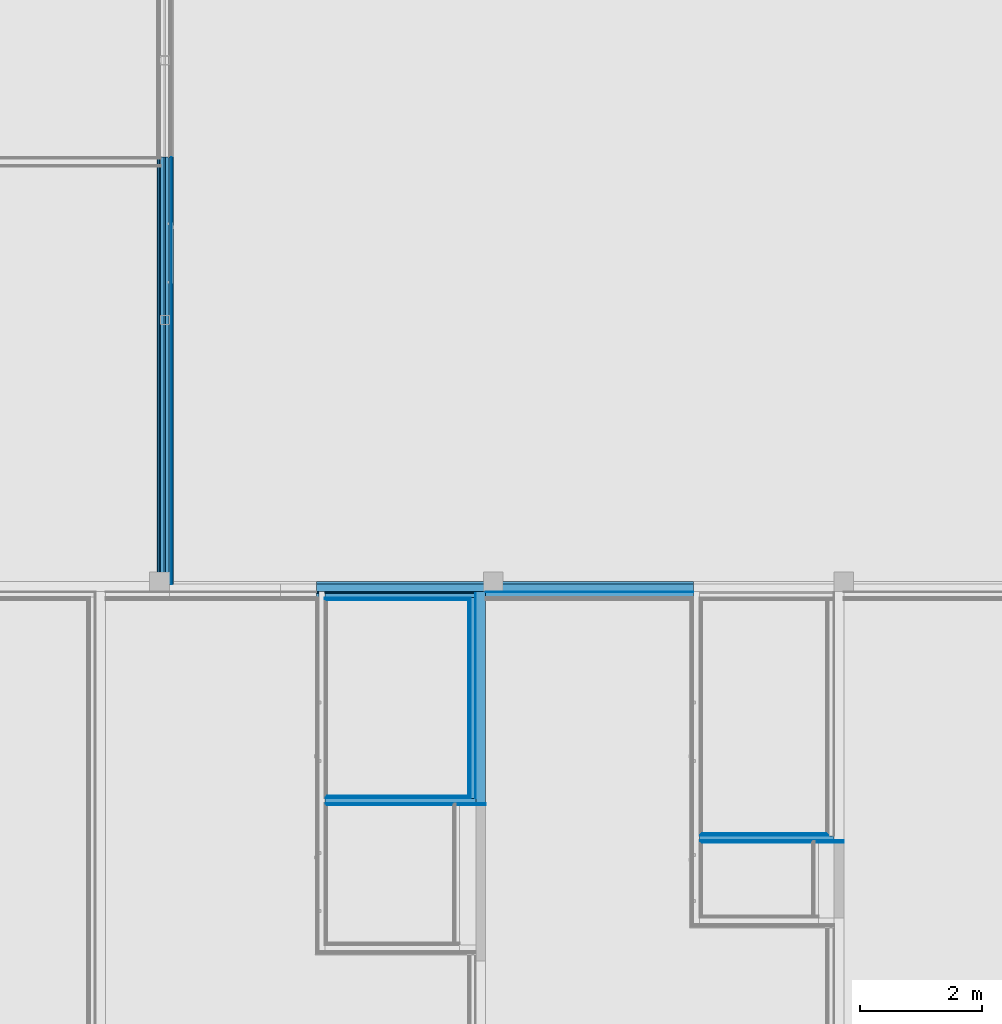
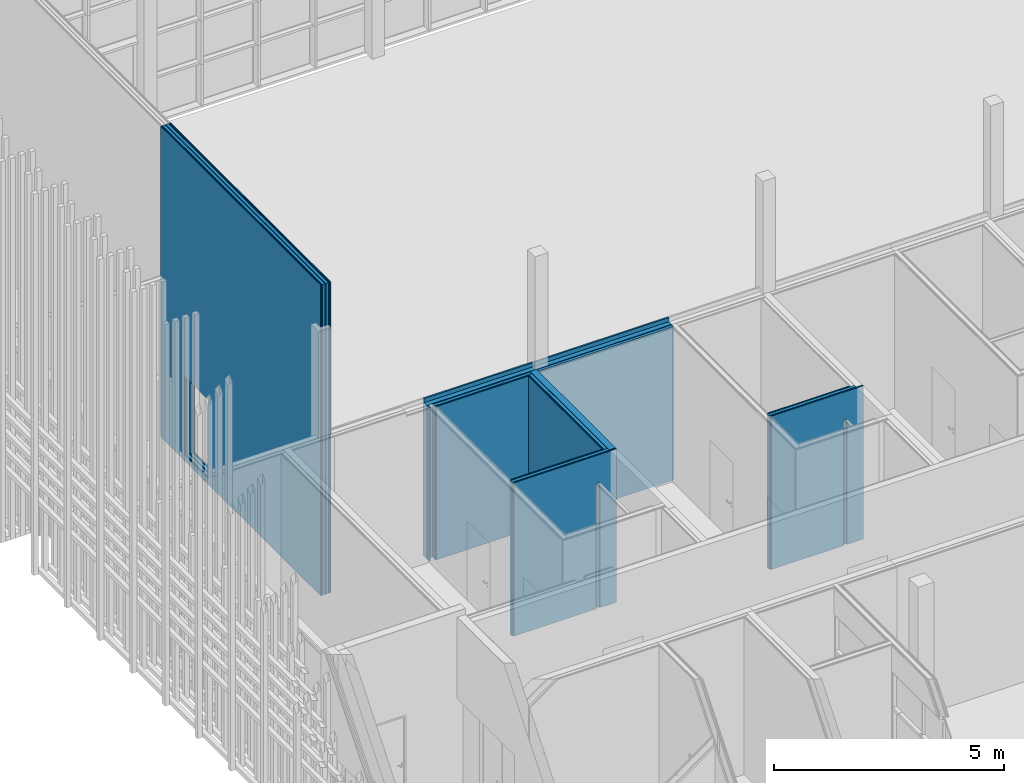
# One storey, part 223 of 260: 39 building element parts, 1 opening, 6 elements without a shape of their own.
"""IFC2X3 building model written with IfcOpenShell, lengths in millimetres."""

from ifc_helpers import new_model, entity, si_unit, converted_unit, derived_unit, money_unit, direction, frame, origin_with_axes, place, context, subcontext, project, spatial, faceted_brep, material, type_object, element, aggregate, save


model = new_model("IFC2X3")

# Units and contexts
model_context = context("Model", 3, precision=0.01, world=origin_with_axes(), true_north=direction((0.0, 1.0)))
body_context = subcontext(model_context, "Body", "Model", "MODEL_VIEW")
ifc_project = project(units=[si_unit("LENGTHUNIT", "METRE", prefix="MILLI"), si_unit("AREAUNIT", "SQUARE_METRE"), si_unit("VOLUMEUNIT", "CUBIC_METRE"), converted_unit("PLANEANGLEUNIT", "DEGREE", entity("IfcPlaneAngleMeasure", 0.0174532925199), si_unit("PLANEANGLEUNIT", "RADIAN"), dimensions=[0, 0, 0, 0, 0, 0, 0]), money_unit("EUR"), converted_unit("TIMEUNIT", "Year", entity("IfcTimeMeasure", 31556926.0), si_unit("TIMEUNIT", "SECOND"), dimensions=[0, 0, 1, 0, 0, 0, 0]), si_unit("MASSUNIT", "GRAM", prefix="KILO"), si_unit("THERMODYNAMICTEMPERATUREUNIT", "DEGREE_CELSIUS"), si_unit("LUMINOUSINTENSITYUNIT", "LUMEN"), si_unit("ENERGYUNIT", "JOULE", prefix="MEGA"), derived_unit("THERMALCONDUCTANCEUNIT", [(si_unit("POWERUNIT", "WATT"), 1), (si_unit("LENGTHUNIT", "METRE"), -1), (si_unit("THERMODYNAMICTEMPERATUREUNIT", "KELVIN"), -1)]), derived_unit("SPECIFICHEATCAPACITYUNIT", [(si_unit("ENERGYUNIT", "JOULE"), 1), (si_unit("MASSUNIT", "GRAM", prefix="KILO"), -1), (si_unit("THERMODYNAMICTEMPERATUREUNIT", "KELVIN"), -1)]), derived_unit("MASSDENSITYUNIT", [(si_unit("MASSUNIT", "GRAM", prefix="KILO"), 1), (si_unit("VOLUMEUNIT", "CUBIC_METRE"), -1)])], contexts=[model_context])

# Site, building, storey
site_placement = place(None, origin_with_axes())
site = spatial("IfcSite", under=ifc_project, at=site_placement, Name="Kolde pst 67a", CompositionType="ELEMENT")
building_placement = place(site_placement, origin_with_axes())
building = spatial("IfcBuilding", under=site, at=building_placement, Name="Riigigümnaasium", CompositionType="ELEMENT")
storey_placement = place(building_placement, origin_with_axes())
storey = spatial("IfcBuildingStorey", under=building, at=storey_placement, Name="1. korrus", CompositionType="ELEMENT", Elevation=0.0)

# Wall, building element parts
wall_type_1 = type_object("IfcWallType", Name="SS-CLT-16/3_vill+plaat märgruumid 285", PredefinedType="NOTDEFINED")
wall_1_placement = place(storey_placement, frame((9506.48821835, 67089.9971514, 0.0), z_axis=(0.0, 0.0, 1.0), x_axis=(0.0, -1.0, 0.0)))
wall_1 = element("IfcWall", 1, at=wall_1_placement, inside=storey, type_object=wall_type_1, Name="Sisesein")
ifc_material_1 = material(Name="_KANDETARIND - CLT ristkihtliimpuit vastavalt EK osale, CLT paigaldusvuugid teibitakse ROTHOBLAAS teibiga")
building_element_part_1_placement = place(wall_1_placement, origin_with_axes())
building_element_part_1 = element("IfcBuildingElementPart", 2, at=building_element_part_1_placement, material=ifc_material_1, Name="_KANDETARIND - CLT ristkihtliimpuit vastavalt EK osale, CLT paigaldusvuugid teibitakse ROTHOBLAAS teibiga", context=body_context, shape_type="Brep", body=[
    faceted_brep([(0.0, -160.0, 4080.0), (0.0, 0.0, 4080.0), (0.0, 0.0, 0.0), (0.0, -160.0, 0.0), (3442.48301452, 0.0, 4080.0), (3442.48301452, -160.0, 4080.0), (3442.48301452, 0.0, 0.0), (3442.48301452, -160.0, 0.0)], [[[0, 1, 2, 3]], [[4, 1, 0, 5]], [[1, 4, 6, 2]], [[7, 3, 2, 6]], [[5, 0, 3, 7]], [[4, 5, 7, 6]]]),
])
ifc_material_2 = material(Name="_ÕHKVAHE")
building_element_part_2_placement = place(wall_1_placement, origin_with_axes())
building_element_part_2 = element("IfcBuildingElementPart", 3, at=building_element_part_2_placement, material=ifc_material_2, Name="_ÕHKVAHE", context=body_context, shape_type="Brep", body=[
    faceted_brep([(25.0, -170.0, 4080.0), (25.0, -160.0, 4080.0), (25.0, -160.0, 0.0), (25.0, -170.0, 0.0), (3379.98301452, -160.0, 4080.0), (3379.98301452, -170.0, 4080.0), (3379.98301452, -160.0, 0.0), (3379.98301452, -170.0, 0.0)], [[[0, 1, 2, 3]], [[4, 1, 0, 5]], [[1, 4, 6, 2]], [[7, 3, 2, 6]], [[5, 0, 3, 7]], [[4, 5, 7, 6]]]),
])
ifc_material_3 = material(Name="_KARKASS - metallkarkass CW 75/50/06 ja UW 75/40/06, samm 600")
building_element_part_3_placement = place(wall_1_placement, origin_with_axes())
building_element_part_3 = element("IfcBuildingElementPart", 4, at=building_element_part_3_placement, material=ifc_material_3, Name="_KARKASS - metallkarkass CW 75/50/06 ja UW 75/40/06, samm 600", context=body_context, shape_type="Brep", body=[
    faceted_brep([(100.0, -245.0, 4080.0), (100.0, -170.0, 4080.0), (100.0, -170.0, 0.0), (100.0, -245.0, 0.0), (3379.98301452, -170.0, 4080.0), (3379.98301452, -245.0, 4080.0), (3379.98301452, -170.0, 0.0), (3379.98301452, -245.0, 0.0)], [[[0, 1, 2, 3]], [[4, 1, 0, 5]], [[1, 4, 6, 2]], [[7, 3, 2, 6]], [[5, 0, 3, 7]], [[4, 5, 7, 6]]]),
])
ifc_material_4 = material(Name="_PLAATMATERJAL - kipsplaat veekindel")
building_element_part_4_placement = place(wall_1_placement, origin_with_axes())
building_element_part_4 = element("IfcBuildingElementPart", 5, at=building_element_part_4_placement, material=ifc_material_4, Name="_PLAATMATERJAL - kipsplaat veekindel", context=body_context, shape_type="Brep", body=[
    faceted_brep([(130.0, -257.5, 4080.0), (130.0, -245.0, 4080.0), (130.0, -245.0, 0.0), (130.0, -257.5, 0.0), (3379.98301452, -245.0, 4080.0), (3379.98301452, -257.5, 4080.0), (3379.98301452, -245.0, 0.0), (3379.98301452, -257.5, 0.0)], [[[0, 1, 2, 3]], [[4, 1, 0, 5]], [[1, 4, 6, 2]], [[7, 3, 2, 6]], [[5, 0, 3, 7]], [[4, 5, 7, 6]]]),
])
building_element_part_5_placement = place(wall_1_placement, origin_with_axes())
building_element_part_5 = element("IfcBuildingElementPart", 6, at=building_element_part_5_placement, material=ifc_material_4, Name="_PLAATMATERJAL - kipsplaat veekindel", context=body_context, shape_type="Brep", body=[
    faceted_brep([(130.0, -270.0, 4080.0), (130.0, -257.5, 4080.0), (130.0, -257.5, 0.0), (130.0, -270.0, 0.0), (3367.48301452, -257.5, 4080.0), (3367.48301452, -270.0, 4080.0), (3367.48301452, -257.5, 0.0), (3367.48301452, -270.0, 0.0)], [[[0, 1, 2, 3]], [[4, 1, 0, 5]], [[1, 4, 6, 2]], [[7, 3, 2, 6]], [[5, 0, 3, 7]], [[4, 5, 7, 6]]]),
])
ifc_material_5 = material(Name="_VIIMISTLUSKIHT - viimistlus vastavalt SA osale")
building_element_part_6_placement = place(wall_1_placement, origin_with_axes())
building_element_part_6 = element("IfcBuildingElementPart", 7, at=building_element_part_6_placement, material=ifc_material_5, Name="_VIIMISTLUSKIHT - viimistlus vastavalt SA osale", context=body_context, shape_type="Brep", body=[
    faceted_brep([(140.0, -285.0, 4080.0), (140.0, -270.0, 4080.0), (140.0, -270.0, 0.0), (140.0, -285.0, 0.0), (3354.98301452, -270.0, 4080.0), (3354.98301452, -285.0, 4080.0), (3354.98301452, -270.0, 0.0), (3354.98301452, -285.0, 0.0)], [[[0, 1, 2, 3]], [[4, 1, 0, 5]], [[1, 4, 6, 2]], [[7, 3, 2, 6]], [[5, 0, 3, 7]], [[4, 5, 7, 6]]]),
])
aggregate(wall_1, [building_element_part_1, building_element_part_2, building_element_part_3, building_element_part_4, building_element_part_5, building_element_part_6])

wall_type_2 = type_object("IfcWallType", Name="SS-MK-7,5/1_plaaditud 155", PredefinedType="NOTDEFINED")
wall_2_placement = place(storey_placement, frame((6923.47622391, 63750.0141369, 0.0), z_axis=(0.0, 0.0, 1.0), x_axis=(1.0, 0.0, 0.0)))
wall_2 = element("IfcWall", 8, at=wall_2_placement, inside=storey, type_object=wall_type_2, Name="Sisesein")
building_element_part_7_placement = place(wall_2_placement, origin_with_axes())
building_element_part_7 = element("IfcBuildingElementPart", 9, at=building_element_part_7_placement, material=ifc_material_5, Name="_VIIMISTLUSKIHT - viimistlus vastavalt SA osale", context=body_context, shape_type="Brep", body=[
    faceted_brep([(0.0, 0.0, 4080.0), (2298.01199444, 0.0, 4080.0), (2298.01199444, 0.0, 0.0), (0.0, 0.0, 0.0), (2298.01199444, -15.0, 4080.0), (-2.86259904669e-07, -15.0, 4080.0), (2298.01199444, -15.0, 0.0), (-2.53229970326e-06, -15.0, 0.0)], [[[0, 1, 2, 3]], [[4, 1, 0, 5]], [[1, 4, 6, 2]], [[6, 7, 3, 2]], [[5, 0, 3, 7]], [[4, 5, 7, 6]]]),
])
building_element_part_8_placement = place(wall_2_placement, origin_with_axes())
building_element_part_8 = element("IfcBuildingElementPart", 10, at=building_element_part_8_placement, material=ifc_material_4, Name="_PLAATMATERJAL - kipsplaat veekindel", context=body_context, shape_type="Brep", body=[
    faceted_brep([(-15.0000025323, -15.0, 4080.0), (2313.01199444, -15.0, 4080.0), (2313.01199444, -15.0, 0.0), (-15.0000025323, -15.0, 0.0), (2313.01199444, -27.5, 4080.0), (-15.0000046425, -27.5, 4080.0), (2313.01199444, -27.5, 0.0), (-15.0000046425, -27.5, 0.0)], [[[0, 1, 2, 3]], [[4, 1, 0, 5]], [[1, 4, 6, 2]], [[6, 7, 3, 2]], [[5, 0, 3, 7]], [[4, 5, 7, 6]]]),
])
building_element_part_9_placement = place(wall_2_placement, origin_with_axes())
building_element_part_9 = element("IfcBuildingElementPart", 11, at=building_element_part_9_placement, material=ifc_material_4, Name="_PLAATMATERJAL - kipsplaat veekindel", context=body_context, shape_type="Brep", body=[
    faceted_brep([(-27.5000046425, -27.5, 4080.0), (2325.51199444, -27.5, 4080.0), (2325.51199444, -27.5, 0.0), (-27.5000046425, -27.5, 0.0), (2325.51199444, -40.0, 4080.0), (-27.5000067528, -40.0, 4080.0), (2325.51199444, -40.0, 0.0), (-27.5000067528, -40.0, 0.0)], [[[0, 1, 2, 3]], [[4, 1, 0, 5]], [[1, 4, 6, 2]], [[6, 7, 3, 2]], [[5, 0, 3, 7]], [[4, 5, 7, 6]]]),
])
ifc_material_6 = material(Name="_KARKASS - metallkarkass CW 75/50, mineraalvill karkassi vahel")
building_element_part_10_placement = place(wall_2_placement, origin_with_axes())
building_element_part_10 = element("IfcBuildingElementPart", 12, at=building_element_part_10_placement, material=ifc_material_6, Name="_KARKASS - metallkarkass CW 75/50, mineraalvill karkassi vahel", context=body_context, shape_type="Brep", body=[
    faceted_brep([(2423.01199444, -102.5, 4080.0), (2583.01199444, -102.5, 4080.0), (2583.01199444, -102.5, 0.0), (2423.01199444, -102.5, 0.0), (2583.01199646, -115.0, 4080.0), (2423.01199444, -40.0, 4080.0), (-40.0000067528, -40.0, 4080.0), (-40.0000194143, -115.0, 4080.0), (2583.01201232, -115.0, 0.0), (-40.0000194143, -115.0, 0.0), (-40.0000067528, -40.0, 0.0), (2423.01199444, -40.0, 0.0)], [[[0, 1, 2, 3]], [[4, 1, 0, 5, 6, 7]], [[1, 4, 8, 2]], [[8, 9, 10, 11, 3, 2]], [[5, 0, 3, 11]], [[6, 5, 11, 10]], [[7, 6, 10, 9]], [[4, 7, 9, 8]]]),
])
building_element_part_11_placement = place(wall_2_placement, origin_with_axes())
building_element_part_11 = element("IfcBuildingElementPart", 13, at=building_element_part_11_placement, material=ifc_material_4, Name="_PLAATMATERJAL - kipsplaat veekindel", context=body_context, shape_type="Brep", body=[
    faceted_brep([(-27.5000194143, -115.0, 4080.0), (2583.01199646, -115.0, 4080.0), (2583.01201232, -115.0, 0.0), (2158.01203844, -115.0, 0.0), (2158.01203844, -115.0, 3340.0), (2092.01203844, -115.0, 3340.0), (2092.01203844, -115.0, 0.0), (-27.5000194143, -115.0, 0.0), (2583.01199646, -127.5, 4080.0), (-27.5000215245, -127.5, 4080.0), (2583.01201232, -127.5, 0.0), (2158.01203844, -127.5, 0.0), (2158.01203844, -127.5, 3340.0), (2092.01203844, -127.5, 3340.0), (2092.01203844, -127.5, 0.0), (-27.5000215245, -127.5, 0.0)], [[[0, 1, 2, 3, 4, 5, 6, 7]], [[8, 1, 0, 9]], [[1, 8, 10, 2]], [[10, 11, 3, 2]], [[12, 4, 3, 11]], [[13, 5, 4, 12]], [[14, 6, 5, 13]], [[7, 6, 14, 15]], [[9, 0, 7, 15]], [[8, 9, 15, 14, 13, 12, 11, 10]]]),
])
building_element_part_12_placement = place(wall_2_placement, origin_with_axes())
building_element_part_12 = element("IfcBuildingElementPart", 14, at=building_element_part_12_placement, material=ifc_material_4, Name="_PLAATMATERJAL - kipsplaat veekindel", context=body_context, shape_type="Brep", body=[
    faceted_brep([(-15.0000215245, -127.5, 4080.0), (2583.01199646, -127.5, 4080.0), (2583.01201232, -127.5, 0.0), (2158.01203844, -127.5, 0.0), (2158.01203844, -127.5, 3340.0), (2079.51203844, -127.5, 3340.0), (2079.51203844, -127.5, 0.0), (-15.0000215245, -127.5, 0.0), (2583.01199646, -140.0, 4080.0), (-15.0000236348, -140.0, 4080.0), (2583.01201232, -140.0, 0.0), (2158.01203844, -140.0, 0.0), (2158.01203844, -140.0, 3340.0), (2079.51203844, -140.0, 3340.0), (2079.51203844, -140.0, 0.0), (-15.0000236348, -140.0, 0.0)], [[[0, 1, 2, 3, 4, 5, 6, 7]], [[8, 1, 0, 9]], [[1, 8, 10, 2]], [[10, 11, 3, 2]], [[12, 4, 3, 11]], [[4, 12, 13, 5]], [[14, 6, 5, 13]], [[7, 6, 14, 15]], [[9, 0, 7, 15]], [[8, 9, 15, 14, 13, 12, 11, 10]]]),
])
building_element_part_13_placement = place(wall_2_placement, origin_with_axes())
building_element_part_13 = element("IfcBuildingElementPart", 15, at=building_element_part_13_placement, material=ifc_material_5, Name="_VIIMISTLUSKIHT - viimistlus vastavalt SA osale", context=body_context, shape_type="Brep", body=[
    faceted_brep([(-2.67175792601e-06, -140.0, 4080.0), (2583.01199646, -140.0, 4080.0), (2583.01201232, -140.0, 0.0), (2158.01203844, -140.0, 0.0), (2158.01203844, -140.0, 3340.0), (2067.01203844, -140.0, 3340.0), (2067.01203844, -140.0, 0.0), (-2.36347856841e-05, -140.0, 0.0), (2583.01199491, -155.0, 4080.0), (-2.61670844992e-05, -155.0, 4080.0), (2583.01201232, -155.0, 0.0), (2158.01203844, -155.0, 0.0), (2158.01203844, -155.0, 3340.0), (2067.01203844, -155.0, 3340.0), (2067.01203844, -155.0, 0.0), (-2.61670844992e-05, -155.0, 0.0)], [[[0, 1, 2, 3, 4, 5, 6, 7]], [[8, 1, 0, 9]], [[1, 8, 10, 2]], [[10, 11, 3, 2]], [[12, 4, 3, 11]], [[4, 12, 13, 5]], [[14, 6, 5, 13]], [[7, 6, 14, 15]], [[9, 0, 7, 15]], [[8, 9, 15, 14, 13, 12, 11, 10]]]),
])
aggregate(wall_2, [building_element_part_7, building_element_part_8, building_element_part_9, building_element_part_10, building_element_part_11, building_element_part_12, building_element_part_13])

wall_3_placement = place(storey_placement, frame((15360.0, 63139.5592997, 0.0), z_axis=(0.0, 0.0, 1.0), x_axis=(-1.0, 0.0, 0.0)))
wall_3 = element("IfcWall", 16, at=wall_3_placement, inside=storey, type_object=wall_type_2, Name="Sisesein")
building_element_part_14_placement = place(wall_3_placement, origin_with_axes())
building_element_part_14 = element("IfcBuildingElementPart", 17, at=building_element_part_14_placement, material=ifc_material_5, Name="_VIIMISTLUSKIHT - viimistlus vastavalt SA osale", context=body_context, shape_type="Brep", body=[
    faceted_brep([(2317.25978502, 140.0, 4080.0), (-1.14834719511e-06, 140.0, 4080.0), (-1.7881408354e-05, 140.0, 0.0), (411.259785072, 140.0, 0.0), (411.259785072, 140.0, 3340.0), (502.259785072, 140.0, 3340.0), (502.259785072, 140.0, 0.0), (2317.25978502, 140.0, 0.0), (2317.25978502, 155.0, 4080.0), (160.0, 155.0, 4080.0), (77.5002699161, 155.0, 4080.0), (-4.69439598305e-07, 155.0, 4080.0), (-1.7881408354e-05, 155.0, 0.0), (411.259785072, 155.0, 0.0), (411.259785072, 155.0, 3340.0), (502.259785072, 155.0, 3340.0), (502.259785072, 155.0, 0.0), (2317.25978502, 155.0, 0.0)], [[[0, 1, 2, 3, 4, 5, 6, 7]], [[1, 0, 8, 9, 10, 11]], [[1, 11, 12, 2]], [[12, 13, 3, 2]], [[14, 4, 3, 13]], [[4, 14, 15, 5]], [[16, 6, 5, 15]], [[7, 6, 16, 17]], [[8, 0, 7, 17]], [[9, 8, 17, 16, 15, 14, 13, 12, 11, 10]]]),
])
building_element_part_15_placement = place(wall_3_placement, origin_with_axes())
building_element_part_15 = element("IfcBuildingElementPart", 18, at=building_element_part_15_placement, material=ifc_material_4, Name="_PLAATMATERJAL - kipsplaat veekindel", context=body_context, shape_type="Brep", body=[
    faceted_brep([(2332.25978502, 127.5, 4080.0), (-1.14834719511e-06, 127.5, 4080.0), (-1.7881408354e-05, 127.5, 0.0), (411.259785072, 127.5, 0.0), (411.259785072, 127.5, 3340.0), (489.759785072, 127.5, 3340.0), (489.759785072, 127.5, 0.0), (2332.25978502, 127.5, 0.0), (2332.25978502, 140.0, 4080.0), (-1.14834719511e-06, 140.0, 4080.0), (-1.7881408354e-05, 140.0, 0.0), (411.259785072, 140.0, 0.0), (411.259785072, 140.0, 3340.0), (489.759785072, 140.0, 3340.0), (489.759785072, 140.0, 0.0), (2332.25978502, 140.0, 0.0)], [[[0, 1, 2, 3, 4, 5, 6, 7]], [[1, 0, 8, 9]], [[1, 9, 10, 2]], [[10, 11, 3, 2]], [[12, 4, 3, 11]], [[4, 12, 13, 5]], [[14, 6, 5, 13]], [[7, 6, 14, 15]], [[8, 0, 7, 15]], [[8, 15, 14, 13, 12, 11, 10, 9]]]),
])
building_element_part_16_placement = place(wall_3_placement, origin_with_axes())
building_element_part_16 = element("IfcBuildingElementPart", 19, at=building_element_part_16_placement, material=ifc_material_4, Name="_PLAATMATERJAL - kipsplaat veekindel", context=body_context, shape_type="Brep", body=[
    faceted_brep([(2344.75978502, 115.0, 4080.0), (-1.14834719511e-06, 115.0, 4080.0), (-1.7881408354e-05, 115.0, 0.0), (411.259785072, 115.0, 0.0), (411.259785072, 115.0, 3340.0), (477.259785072, 115.0, 3340.0), (477.259785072, 115.0, 0.0), (2344.75978502, 115.0, 0.0), (2344.75978502, 127.5, 4080.0), (-1.14834719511e-06, 127.5, 4080.0), (-1.7881408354e-05, 127.5, 0.0), (411.259785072, 127.5, 0.0), (411.259785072, 127.5, 3340.0), (477.259785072, 127.5, 3340.0), (477.259785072, 127.5, 0.0), (2344.75978502, 127.5, 0.0)], [[[0, 1, 2, 3, 4, 5, 6, 7]], [[1, 0, 8, 9]], [[1, 9, 10, 2]], [[10, 11, 3, 2]], [[12, 4, 3, 11]], [[13, 5, 4, 12]], [[14, 6, 5, 13]], [[7, 6, 14, 15]], [[8, 0, 7, 15]], [[8, 15, 14, 13, 12, 11, 10, 9]]]),
])
building_element_part_17_placement = place(wall_3_placement, origin_with_axes())
building_element_part_17 = element("IfcBuildingElementPart", 20, at=building_element_part_17_placement, material=ifc_material_6, Name="_KARKASS - metallkarkass CW 75/50, mineraalvill karkassi vahel", context=body_context, shape_type="Brep", body=[
    faceted_brep([(2357.25978502, 40.0, 4080.0), (160.0, 40.0, 4080.0), (160.0, 40.0, 0.0), (2357.25978502, 40.0, 0.0), (160.0, 114.99999998, 4080.0), (2357.25978502, 115.0, 4080.0), (160.0, 114.99999998, 0.0), (2357.25978502, 115.0, 0.0)], [[[0, 1, 2, 3]], [[4, 1, 0, 5]], [[1, 4, 6, 2]], [[3, 2, 6, 7]], [[5, 0, 3, 7]], [[4, 5, 7, 6]]]),
])
building_element_part_18_placement = place(wall_3_placement, origin_with_axes())
building_element_part_18 = element("IfcBuildingElementPart", 21, at=building_element_part_18_placement, material=ifc_material_4, Name="_PLAATMATERJAL - kipsplaat veekindel", context=body_context, shape_type="Brep", body=[
    faceted_brep([(2344.75978502, 27.5, 4080.0), (257.5, 27.5, 4080.0), (257.5, 27.5, 0.0), (2344.75978502, 27.5, 0.0), (257.5, 40.0, 4080.0), (2344.75978502, 40.0, 4080.0), (257.5, 40.0, 0.0), (2344.75978502, 40.0, 0.0)], [[[0, 1, 2, 3]], [[4, 1, 0, 5]], [[1, 4, 6, 2]], [[3, 2, 6, 7]], [[5, 0, 3, 7]], [[4, 5, 7, 6]]]),
])
building_element_part_19_placement = place(wall_3_placement, origin_with_axes())
building_element_part_19 = element("IfcBuildingElementPart", 22, at=building_element_part_19_placement, material=ifc_material_4, Name="_PLAATMATERJAL - kipsplaat veekindel", context=body_context, shape_type="Brep", body=[
    faceted_brep([(2332.25978502, 15.0, 4080.0), (270.0, 15.0, 4080.0), (270.0, 15.0, 0.0), (2332.25978502, 15.0, 0.0), (270.0, 27.5, 4080.0), (2332.25978502, 27.5, 4080.0), (270.0, 27.5, 0.0), (2332.25978502, 27.5, 0.0)], [[[0, 1, 2, 3]], [[4, 1, 0, 5]], [[1, 4, 6, 2]], [[3, 2, 6, 7]], [[5, 0, 3, 7]], [[4, 5, 7, 6]]]),
])
building_element_part_20_placement = place(wall_3_placement, origin_with_axes())
building_element_part_20 = element("IfcBuildingElementPart", 23, at=building_element_part_20_placement, material=ifc_material_5, Name="_VIIMISTLUSKIHT - viimistlus vastavalt SA osale", context=body_context, shape_type="Brep", body=[
    faceted_brep([(2317.25978502, 0.0, 4080.0), (285.0, 0.0, 4080.0), (285.0, 0.0, 0.0), (2317.25978502, 0.0, 0.0), (285.0, 15.0, 4080.0), (2317.25978502, 15.0, 4080.0), (285.0, 15.0, 0.0), (2317.25978502, 15.0, 0.0)], [[[0, 1, 2, 3]], [[4, 1, 0, 5]], [[1, 4, 6, 2]], [[3, 2, 6, 7]], [[5, 0, 3, 7]], [[4, 5, 7, 6]]]),
])
aggregate(wall_3, [building_element_part_14, building_element_part_15, building_element_part_16, building_element_part_17, building_element_part_18, building_element_part_19, building_element_part_20])

# Wall, opening, building element parts
wall_type_3 = type_object("IfcWallType", Name="SS-MK-6,6/1_vill75+dold+värv tehno-võimla 60dB 257", PredefinedType="NOTDEFINED")
wall_4_placement = place(storey_placement, frame((4145.00006412, 74184.9906509, -150.0), z_axis=(0.0, 0.0, 1.0), x_axis=(0.0, -1.0, 0.0)))
wall_4 = element("IfcWall", 24, at=wall_4_placement, inside=storey, type_object=wall_type_3, Name="Sisesein")
opening_placement = place(wall_4_placement, frame((1564.99063224, 0.0, 150.0), z_axis=(0.0, 0.0, 1.0), x_axis=(1.0, 0.0, 0.0)))
element("IfcOpeningElement", 25, at=opening_placement, cuts=wall_4, Name="Siseuks", context=body_context, shape_type="Brep", body=[
    faceted_brep([(500.0, -257.0, 2100.0), (500.0, -257.0, 0.0), (500.0, 514.0, 0.0), (500.0, 514.0, 2100.0), (-500.0, -257.0, 2100.0), (-500.0, -257.0, 0.0), (-500.0, 514.0, 0.0), (-500.0, 514.0, 2100.0)], [[[0, 1, 2, 3]], [[0, 4, 5, 1]], [[1, 5, 6, 2]], [[3, 2, 6, 7]], [[4, 0, 3, 7]], [[5, 4, 7, 6]]]),
])
ifc_material_7 = material(Name="_VIIMISTLUSKIHT - Dold plaat vastavalt SA osale")
building_element_part_21_placement = place(wall_4_placement, origin_with_axes())
building_element_part_21 = element("IfcBuildingElementPart", 26, at=building_element_part_21_placement, material=ifc_material_7, Name="_VIIMISTLUSKIHT - Dold plaat vastavalt SA osale", context=body_context, shape_type="Brep", body=[
    faceted_brep([(6974.99348659, 237.0, 8270.0), (0.0, 237.0, 8270.0), (0.0, 237.0, 0.0), (6974.99348659, 237.0, 0.0), (2064.99063224, 237.0, 150.0), (1064.99063224, 237.0, 150.0), (1064.99063224, 237.0, 2250.0), (2064.99063224, 237.0, 2250.0), (6974.99348659, 257.0, 8270.0), (0.0, 257.0, 8270.0), (0.0, 257.0, 0.0), (6974.99348659, 257.0, 0.0), (2064.99063224, 257.0, 150.0), (1064.99063224, 257.0, 150.0), (1064.99063224, 257.0, 2250.0), (2064.99063224, 257.0, 2250.0)], [[[0, 1, 2, 3], [4, 5, 6, 7]], [[8, 9, 1, 0]], [[2, 1, 9, 10]], [[3, 2, 10, 11]], [[8, 0, 3, 11]], [[12, 13, 5, 4]], [[13, 14, 6, 5]], [[14, 15, 7, 6]], [[15, 12, 4, 7]], [[11, 10, 9, 8], [12, 15, 14, 13]]]),
])
ifc_material_8 = material(Name="_KARKASS - eriprofiilkinnitus vastavalt sisemisele plaatviimistlusele")
building_element_part_22_placement = place(wall_4_placement, origin_with_axes())
building_element_part_22 = element("IfcBuildingElementPart", 27, at=building_element_part_22_placement, material=ifc_material_8, Name="_KARKASS - eriprofiilkinnitus vastavalt sisemisele plaatviimistlusele", context=body_context, shape_type="Brep", body=[
    faceted_brep([(6974.99348659, 227.0, 8270.0), (0.0, 227.0, 8270.0), (0.0, 227.0, 0.0), (6974.99348659, 227.0, 0.0), (2064.99063224, 227.0, 150.0), (1064.99063224, 227.0, 150.0), (1064.99063224, 227.0, 2250.0), (2064.99063224, 227.0, 2250.0), (6974.99348659, 237.0, 8270.0), (0.0, 237.0, 8270.0), (0.0, 237.0, 0.0), (6974.99348659, 237.0, 0.0), (2064.99063224, 237.0, 150.0), (1064.99063224, 237.0, 150.0), (1064.99063224, 237.0, 2250.0), (2064.99063224, 237.0, 2250.0)], [[[0, 1, 2, 3], [4, 5, 6, 7]], [[8, 9, 1, 0]], [[2, 1, 9, 10]], [[3, 2, 10, 11]], [[8, 0, 3, 11]], [[12, 13, 5, 4]], [[13, 14, 6, 5]], [[14, 15, 7, 6]], [[15, 12, 4, 7]], [[11, 10, 9, 8], [12, 15, 14, 13]]]),
])
ifc_material_9 = material(Name="_PLAATMATERJAL - tuletõkkekipsplaat, Knauf Red GKF või samaväärne")
building_element_part_23_placement = place(wall_4_placement, origin_with_axes())
building_element_part_23 = element("IfcBuildingElementPart", 28, at=building_element_part_23_placement, material=ifc_material_9, Name="_PLAATMATERJAL - tuletõkkekipsplaat, Knauf Red GKF või samaväärne", context=body_context, shape_type="Brep", body=[
    faceted_brep([(6974.99348659, 212.0, 8270.0), (0.0, 212.0, 8270.0), (0.0, 212.0, 0.0), (6974.99348659, 212.0, 0.0), (2064.99063224, 212.0, 150.0), (1064.99063224, 212.0, 150.0), (1064.99063224, 212.0, 2250.0), (2064.99063224, 212.0, 2250.0), (6974.99348659, 227.0, 8270.0), (0.0, 227.0, 8270.0), (0.0, 227.0, 0.0), (6974.99348659, 227.0, 0.0), (2064.99063224, 227.0, 150.0), (1064.99063224, 227.0, 150.0), (1064.99063224, 227.0, 2250.0), (2064.99063224, 227.0, 2250.0)], [[[0, 1, 2, 3], [4, 5, 6, 7]], [[8, 9, 1, 0]], [[2, 1, 9, 10]], [[3, 2, 10, 11]], [[8, 0, 3, 11]], [[12, 13, 5, 4]], [[13, 14, 6, 5]], [[14, 15, 7, 6]], [[15, 12, 4, 7]], [[11, 10, 9, 8], [12, 15, 14, 13]]]),
])
building_element_part_24_placement = place(wall_4_placement, origin_with_axes())
building_element_part_24 = element("IfcBuildingElementPart", 29, at=building_element_part_24_placement, material=ifc_material_9, Name="_PLAATMATERJAL - tuletõkkekipsplaat, Knauf Red GKF või samaväärne", context=body_context, shape_type="Brep", body=[
    faceted_brep([(6974.99348659, 197.0, 8270.0), (0.0, 197.0, 8270.0), (0.0, 197.0, 0.0), (6974.99348659, 197.0, 0.0), (2064.99063224, 197.0, 150.0), (1064.99063224, 197.0, 150.0), (1064.99063224, 197.0, 2250.0), (2064.99063224, 197.0, 2250.0), (6974.99348659, 212.0, 8270.0), (0.0, 212.0, 8270.0), (0.0, 212.0, 0.0), (6974.99348659, 212.0, 0.0), (2064.99063224, 212.0, 150.0), (1064.99063224, 212.0, 150.0), (1064.99063224, 212.0, 2250.0), (2064.99063224, 212.0, 2250.0)], [[[0, 1, 2, 3], [4, 5, 6, 7]], [[8, 9, 1, 0]], [[2, 1, 9, 10]], [[3, 2, 10, 11]], [[8, 0, 3, 11]], [[12, 13, 5, 4]], [[13, 14, 6, 5]], [[14, 15, 7, 6]], [[15, 12, 4, 7]], [[11, 10, 9, 8], [12, 15, 14, 13]]]),
])
ifc_material_10 = material(Name="_KARKASS - metallkarkass CW 66/35/06, samm 600, mineraalvill karkassi vahel")
building_element_part_25_placement = place(wall_4_placement, origin_with_axes())
building_element_part_25 = element("IfcBuildingElementPart", 30, at=building_element_part_25_placement, material=ifc_material_10, Name="_KARKASS - metallkarkass CW 66/35/06, samm 600, mineraalvill karkassi vahel", context=body_context, shape_type="Brep", body=[
    faceted_brep([(6974.99348659, 131.0, 8270.0), (0.0, 131.0, 8270.0), (0.0, 131.0, 0.0), (6974.99348659, 131.0, 0.0), (2064.99063224, 131.0, 150.0), (1064.99063224, 131.0, 150.0), (1064.99063224, 131.0, 2250.0), (2064.99063224, 131.0, 2250.0), (6974.99348659, 197.0, 8270.0), (0.0, 197.0, 8270.0), (0.0, 197.0, 0.0), (6974.99348659, 197.0, 0.0), (2064.99063224, 197.0, 150.0), (1064.99063224, 197.0, 150.0), (1064.99063224, 197.0, 2250.0), (2064.99063224, 197.0, 2250.0)], [[[0, 1, 2, 3], [4, 5, 6, 7]], [[8, 9, 1, 0]], [[2, 1, 9, 10]], [[3, 2, 10, 11]], [[8, 0, 3, 11]], [[12, 13, 5, 4]], [[13, 14, 6, 5]], [[14, 15, 7, 6]], [[15, 12, 4, 7]], [[11, 10, 9, 8], [12, 15, 14, 13]]]),
])
building_element_part_26_placement = place(wall_4_placement, origin_with_axes())
building_element_part_26 = element("IfcBuildingElementPart", 31, at=building_element_part_26_placement, material=ifc_material_2, Name="_ÕHKVAHE", context=body_context, shape_type="Brep", body=[
    faceted_brep([(6974.99348659, 111.0, 8270.0), (0.0, 111.0, 8270.0), (0.0, 111.0, 0.0), (6974.99348659, 111.0, 0.0), (2064.99063224, 111.0, 150.0), (1064.99063224, 111.0, 150.0), (1064.99063224, 111.0, 2250.0), (2064.99063224, 111.0, 2250.0), (6974.99348659, 131.0, 8270.0), (0.0, 131.0, 8270.0), (0.0, 131.0, 0.0), (6974.99348659, 131.0, 0.0), (2064.99063224, 131.0, 150.0), (1064.99063224, 131.0, 150.0), (1064.99063224, 131.0, 2250.0), (2064.99063224, 131.0, 2250.0)], [[[0, 1, 2, 3], [4, 5, 6, 7]], [[8, 9, 1, 0]], [[2, 1, 9, 10]], [[3, 2, 10, 11]], [[8, 0, 3, 11]], [[12, 13, 5, 4]], [[13, 14, 6, 5]], [[14, 15, 7, 6]], [[15, 12, 4, 7]], [[11, 10, 9, 8], [12, 15, 14, 13]]]),
])
building_element_part_27_placement = place(wall_4_placement, origin_with_axes())
building_element_part_27 = element("IfcBuildingElementPart", 32, at=building_element_part_27_placement, material=ifc_material_10, Name="_KARKASS - metallkarkass CW 66/35/06, samm 600, mineraalvill karkassi vahel", context=body_context, shape_type="Brep", body=[
    faceted_brep([(6974.99348659, 45.0, 8270.0), (0.0, 45.0, 8270.0), (0.0, 45.0, 0.0), (6974.99348659, 45.0, 0.0), (2064.99063224, 45.0, 150.0), (1064.99063224, 45.0, 150.0), (1064.99063224, 45.0, 2250.0), (2064.99063224, 45.0, 2250.0), (6974.99348659, 111.0, 8270.0), (0.0, 111.0, 8270.0), (0.0, 111.0, 0.0), (6974.99348659, 111.0, 0.0), (2064.99063224, 111.0, 150.0), (1064.99063224, 111.0, 150.0), (1064.99063224, 111.0, 2250.0), (2064.99063224, 111.0, 2250.0)], [[[0, 1, 2, 3], [4, 5, 6, 7]], [[8, 9, 1, 0]], [[2, 1, 9, 10]], [[3, 2, 10, 11]], [[8, 0, 3, 11]], [[12, 13, 5, 4]], [[13, 14, 6, 5]], [[14, 15, 7, 6]], [[15, 12, 4, 7]], [[11, 10, 9, 8], [12, 15, 14, 13]]]),
])
building_element_part_28_placement = place(wall_4_placement, origin_with_axes())
building_element_part_28 = element("IfcBuildingElementPart", 33, at=building_element_part_28_placement, material=ifc_material_9, Name="_PLAATMATERJAL - tuletõkkekipsplaat, Knauf Red GKF või samaväärne", context=body_context, shape_type="Brep", body=[
    faceted_brep([(6974.99348659, 30.0, 8270.0), (0.0, 30.0, 8270.0), (0.0, 30.0, 0.0), (6974.99348659, 30.0, 0.0), (2064.99063224, 30.0, 150.0), (1064.99063224, 30.0, 150.0), (1064.99063224, 30.0, 2250.0), (2064.99063224, 30.0, 2250.0), (6974.99348659, 45.0, 8270.0), (0.0, 45.0, 8270.0), (0.0, 45.0, 0.0), (6974.99348659, 45.0, 0.0), (2064.99063224, 45.0, 150.0), (1064.99063224, 45.0, 150.0), (1064.99063224, 45.0, 2250.0), (2064.99063224, 45.0, 2250.0)], [[[0, 1, 2, 3], [4, 5, 6, 7]], [[8, 9, 1, 0]], [[2, 1, 9, 10]], [[3, 2, 10, 11]], [[8, 0, 3, 11]], [[12, 13, 5, 4]], [[13, 14, 6, 5]], [[14, 15, 7, 6]], [[15, 12, 4, 7]], [[11, 10, 9, 8], [12, 15, 14, 13]]]),
])
building_element_part_29_placement = place(wall_4_placement, origin_with_axes())
building_element_part_29 = element("IfcBuildingElementPart", 34, at=building_element_part_29_placement, material=ifc_material_9, Name="_PLAATMATERJAL - tuletõkkekipsplaat, Knauf Red GKF või samaväärne", context=body_context, shape_type="Brep", body=[
    faceted_brep([(6974.99348659, 15.0, 8270.0), (0.0, 15.0, 8270.0), (0.0, 15.0, 0.0), (6974.99348659, 15.0, 0.0), (2064.99063224, 15.0, 150.0), (1064.99063224, 15.0, 150.0), (1064.99063224, 15.0, 2250.0), (2064.99063224, 15.0, 2250.0), (6974.99348659, 30.0, 8270.0), (0.0, 30.0, 8270.0), (0.0, 30.0, 0.0), (6974.99348659, 30.0, 0.0), (2064.99063224, 30.0, 150.0), (1064.99063224, 30.0, 150.0), (1064.99063224, 30.0, 2250.0), (2064.99063224, 30.0, 2250.0)], [[[0, 1, 2, 3], [4, 5, 6, 7]], [[8, 9, 1, 0]], [[2, 1, 9, 10]], [[3, 2, 10, 11]], [[8, 0, 3, 11]], [[12, 13, 5, 4]], [[13, 14, 6, 5]], [[14, 15, 7, 6]], [[15, 12, 4, 7]], [[11, 10, 9, 8], [12, 15, 14, 13]]]),
])
building_element_part_30_placement = place(wall_4_placement, origin_with_axes())
building_element_part_30 = element("IfcBuildingElementPart", 35, at=building_element_part_30_placement, material=ifc_material_9, Name="_PLAATMATERJAL - tuletõkkekipsplaat, Knauf Red GKF või samaväärne", context=body_context, shape_type="Brep", body=[
    faceted_brep([(6974.99348659, 0.0, 8270.0), (0.0, 0.0, 8270.0), (0.0, 0.0, 0.0), (6974.99348659, 0.0, 0.0), (2064.99063224, 0.0, 150.0), (1064.99063224, 0.0, 150.0), (1064.99063224, 0.0, 2250.0), (2064.99063224, 0.0, 2250.0), (6974.99348659, 15.0, 8270.0), (0.0, 15.0, 8270.0), (0.0, 15.0, 0.0), (6974.99348659, 15.0, 0.0), (2064.99063224, 15.0, 150.0), (1064.99063224, 15.0, 150.0), (1064.99063224, 15.0, 2250.0), (2064.99063224, 15.0, 2250.0)], [[[0, 1, 2, 3], [4, 5, 6, 7]], [[8, 9, 1, 0]], [[2, 1, 9, 10]], [[3, 2, 10, 11]], [[8, 0, 3, 11]], [[12, 13, 5, 4]], [[13, 14, 6, 5]], [[14, 15, 7, 6]], [[15, 12, 4, 7]], [[11, 10, 9, 8], [12, 15, 14, 13]]]),
])
aggregate(wall_4, [building_element_part_21, building_element_part_22, building_element_part_23, building_element_part_24, building_element_part_25, building_element_part_26, building_element_part_27, building_element_part_28, building_element_part_29, building_element_part_30])

# Wall, building element parts
wall_type_4 = type_object("IfcWallType", Name="SS-CLT-16/1_vill75+krohv 52 dB 300", PredefinedType="NOTDEFINED")
wall_5_placement = place(storey_placement, frame((9506.48821835, 67089.9971514, 0.0), z_axis=(0.0, 0.0, 1.0), x_axis=(1.0, 0.0, 0.0)))
wall_5 = element("IfcWall", 36, at=wall_5_placement, inside=storey, type_object=wall_type_4, Name="Sisesein")
building_element_part_31_placement = place(wall_5_placement, origin_with_axes())
building_element_part_31 = element("IfcBuildingElementPart", 37, at=building_element_part_31_placement, material=ifc_material_1, Name="_KANDETARIND - CLT ristkihtliimpuit vastavalt EK osale, CLT paigaldusvuugid teibitakse ROTHOBLAAS teibiga", context=body_context, shape_type="Brep", body=[
    faceted_brep([(0.0, 119.999594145, 4190.0), (3396.25199663, 119.999594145, 4190.0), (3396.25199663, 160.0, 4190.0), (0.0, 160.0, 4190.0), (3396.25199663, 119.999594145, 4080.0), (0.0, 119.999594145, 4080.0), (3396.25199663, 0.0, 4080.0), (3396.25199663, 0.0, 0.0), (3396.25199663, 160.0, 0.0), (0.0, 160.0, 0.0), (0.0, 0.0, 0.0), (0.0, 0.0, 4080.0)], [[[0, 1, 2, 3]], [[4, 1, 0, 5]], [[4, 6, 7, 8, 2, 1]], [[8, 9, 3, 2]], [[5, 0, 3, 9, 10, 11]], [[6, 4, 5, 11]], [[6, 11, 10, 7]], [[7, 10, 9, 8]]]),
])
building_element_part_32_placement = place(wall_5_placement, origin_with_axes())
building_element_part_32 = element("IfcBuildingElementPart", 38, at=building_element_part_32_placement, material=ifc_material_2, Name="_ÕHKVAHE", context=body_context, shape_type="Brep", body=[
    faceted_brep([(0.0, 0.0, 4080.0), (3396.25199663, 0.0, 4080.0), (3396.25199663, 0.0, 0.0), (0.0, 0.0, 0.0), (3396.25199663, -15.0, 4080.0), (0.0, -15.0, 4080.0), (3396.25199663, -15.0, 0.0), (0.0, -15.0, 0.0)], [[[0, 1, 2, 3]], [[4, 1, 0, 5]], [[1, 4, 6, 2]], [[6, 7, 3, 2]], [[5, 0, 3, 7]], [[4, 5, 7, 6]]]),
])
ifc_material_11 = material(Name="_KARKASS - metallkarkass CW 75/50/06 ja UW 75/40/06, samm 600, vahel mineraalvill, helineeldetegur αw = 1.0,  ISOVER ACOUSTIC 75mm või samaväärne")
building_element_part_33_placement = place(wall_5_placement, origin_with_axes())
building_element_part_33 = element("IfcBuildingElementPart", 39, at=building_element_part_33_placement, material=ifc_material_11, Name="_KARKASS - metallkarkass CW 75/50/06 ja UW 75/40/06, samm 600, vahel mineraalvill, helineeldetegur αw = 1.0,  ISOVER ACOUSTIC 75mm või samaväärne", context=body_context, shape_type="Brep", body=[
    faceted_brep([(0.0, -15.0, 4080.0), (3396.25199663, -15.0, 4080.0), (3396.25199663, -15.0, 0.0), (0.0, -15.0, 0.0), (3396.25199663, -90.0, 4080.0), (0.0, -90.0, 4080.0), (3396.25199663, -90.0, 0.0), (0.0, -90.0, 0.0)], [[[0, 1, 2, 3]], [[4, 1, 0, 5]], [[1, 4, 6, 2]], [[6, 7, 3, 2]], [[5, 0, 3, 7]], [[4, 5, 7, 6]]]),
])
aggregate(wall_5, [building_element_part_31, building_element_part_32, building_element_part_33])

wall_type_5 = type_object("IfcWallType", Name="SS-CLT-16/2_vill75 +plaat 300", PredefinedType="NOTDEFINED")
wall_6_placement = place(storey_placement, frame((6743.47678776, 67089.9971514, 0.0), z_axis=(0.0, 0.0, 1.0), x_axis=(1.0, 0.0, 0.0)))
wall_6 = element("IfcWall", 40, at=wall_6_placement, inside=storey, type_object=wall_type_5, Name="Sisesein")
building_element_part_34_placement = place(wall_6_placement, origin_with_axes())
building_element_part_34 = element("IfcBuildingElementPart", 41, at=building_element_part_34_placement, material=ifc_material_1, Name="_KANDETARIND - CLT ristkihtliimpuit vastavalt EK osale, CLT paigaldusvuugid teibitakse ROTHOBLAAS teibiga", context=body_context, shape_type="Brep", body=[
    faceted_brep([(0.0, 119.999594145, 4190.0), (2763.01143058, 119.999594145, 4190.0), (2763.01143058, 160.0, 4190.0), (0.0, 160.0, 4190.0), (2763.01143058, 119.999594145, 4080.0), (0.0, 119.999594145, 4080.0), (2763.01143058, 0.0, 4080.0), (2763.01143058, 0.0, 0.0), (2763.01143058, 160.0, 0.0), (0.0, 160.0, 0.0), (0.0, 0.0, 0.0), (0.0, 0.0, 4080.0)], [[[0, 1, 2, 3]], [[4, 1, 0, 5]], [[4, 6, 7, 8, 2, 1]], [[8, 9, 3, 2]], [[5, 0, 3, 9, 10, 11]], [[6, 4, 5, 11]], [[6, 11, 10, 7]], [[7, 10, 9, 8]]]),
])
building_element_part_35_placement = place(wall_6_placement, origin_with_axes())
building_element_part_35 = element("IfcBuildingElementPart", 42, at=building_element_part_35_placement, material=ifc_material_2, Name="_ÕHKVAHE", context=body_context, shape_type="Brep", body=[
    faceted_brep([(140.0, 0.0, 4080.0), (2603.01143058, 0.0, 4080.0), (2603.01143058, 0.0, 0.0), (140.0, 0.0, 0.0), (2603.01143058, -25.0, 4080.0), (139.99999578, -25.0, 4080.0), (2603.01143058, -25.0, 0.0), (139.99999578, -25.0, 0.0)], [[[0, 1, 2, 3]], [[4, 1, 0, 5]], [[1, 4, 6, 2]], [[3, 2, 6, 7]], [[5, 0, 3, 7]], [[4, 5, 7, 6]]]),
    faceted_brep([(0.0, 0.0, 4080.0), (40.0, 0.0, 4080.0), (40.0, 0.0, 0.0), (0.0, 0.0, 0.0), (39.9999957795, -25.0, 4080.0), (0.0, -25.0, 4080.0), (39.9999957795, -25.0, 0.0), (0.0, -25.0, 0.0)], [[[0, 1, 2, 3]], [[4, 1, 0, 5]], [[1, 4, 6, 2]], [[7, 3, 2, 6]], [[5, 0, 3, 7]], [[4, 5, 7, 6]]]),
])
building_element_part_36_placement = place(wall_6_placement, origin_with_axes())
building_element_part_36 = element("IfcBuildingElementPart", 43, at=building_element_part_36_placement, material=ifc_material_11, Name="_KARKASS - metallkarkass CW 75/50/06 ja UW 75/40/06, samm 600, vahel mineraalvill, helineeldetegur αw = 1.0,  ISOVER ACOUSTIC 75mm või samaväärne", context=body_context, shape_type="Brep", body=[
    faceted_brep([(139.99999578, -25.0, 4080.0), (2593.01143058, -25.0, 4080.0), (2593.01143058, -25.0, 0.0), (139.99999578, -25.0, 0.0), (2593.01143058, -100.0, 4080.0), (139.999983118, -100.0, 4080.0), (2593.01143058, -100.0, 0.0), (139.999983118, -100.0, 0.0)], [[[0, 1, 2, 3]], [[4, 1, 0, 5]], [[1, 4, 6, 2]], [[3, 2, 6, 7]], [[5, 0, 3, 7]], [[4, 5, 7, 6]]]),
    faceted_brep([(0.0, -25.0, 4080.0), (39.9999957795, -25.0, 4080.0), (39.9999957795, -25.0, 0.0), (0.0, -25.0, 0.0), (39.999983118, -100.0, 4080.0), (0.0, -100.0, 4080.0), (39.999983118, -100.0, 0.0), (0.0, -100.0, 0.0)], [[[0, 1, 2, 3]], [[4, 1, 0, 5]], [[1, 4, 6, 2]], [[7, 3, 2, 6]], [[5, 0, 3, 7]], [[4, 5, 7, 6]]]),
])
building_element_part_37_placement = place(wall_6_placement, origin_with_axes())
building_element_part_37 = element("IfcBuildingElementPart", 44, at=building_element_part_37_placement, material=ifc_material_9, Name="_PLAATMATERJAL - tuletõkkekipsplaat, Knauf Red GKF või samaväärne", context=body_context, shape_type="Brep", body=[
    faceted_brep([(139.999983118, -100.0, 4080.0), (2518.01143058, -100.0, 4080.0), (2518.01143058, -100.0, 0.0), (139.999983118, -100.0, 0.0), (2518.01143058, -115.0, 4080.0), (139.999980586, -115.0, 4080.0), (2518.01143058, -115.0, 0.0), (139.999980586, -115.0, 0.0)], [[[0, 1, 2, 3]], [[4, 1, 0, 5]], [[1, 4, 6, 2]], [[3, 2, 6, 7]], [[5, 0, 3, 7]], [[4, 5, 7, 6]]]),
])
building_element_part_38_placement = place(wall_6_placement, origin_with_axes())
building_element_part_38 = element("IfcBuildingElementPart", 45, at=building_element_part_38_placement, material=ifc_material_9, Name="_PLAATMATERJAL - tuletõkkekipsplaat, Knauf Red GKF või samaväärne", context=body_context, shape_type="Brep", body=[
    faceted_brep([(139.999980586, -115.0, 4080.0), (2518.01143058, -115.0, 4080.0), (2518.01143058, -115.0, 0.0), (139.999980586, -115.0, 0.0), (2518.01143058, -130.0, 4080.0), (139.999978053, -130.0, 4080.0), (2518.01143058, -130.0, 0.0), (139.999978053, -130.0, 0.0)], [[[0, 1, 2, 3]], [[4, 1, 0, 5]], [[1, 4, 6, 2]], [[3, 2, 6, 7]], [[5, 0, 3, 7]], [[4, 5, 7, 6]]]),
])
building_element_part_39_placement = place(wall_6_placement, origin_with_axes())
building_element_part_39 = element("IfcBuildingElementPart", 46, at=building_element_part_39_placement, material=ifc_material_5, Name="_VIIMISTLUSKIHT - viimistlus vastavalt SA osale", context=body_context, shape_type="Brep", body=[
    faceted_brep([(164.999978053, -130.0, 4080.0), (2493.01143058, -130.0, 4080.0), (2493.01143058, -130.0, 0.0), (164.999978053, -130.0, 0.0), (2493.01143058, -140.0, 4080.0), (164.999976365, -140.0, 4080.0), (2493.01143058, -140.0, 0.0), (164.999976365, -140.0, 0.0)], [[[0, 1, 2, 3]], [[4, 1, 0, 5]], [[1, 4, 6, 2]], [[3, 2, 6, 7]], [[5, 0, 3, 7]], [[4, 5, 7, 6]]]),
])
aggregate(wall_6, [building_element_part_34, building_element_part_35, building_element_part_36, building_element_part_37, building_element_part_38, building_element_part_39])

save(model, "model.ifc")
